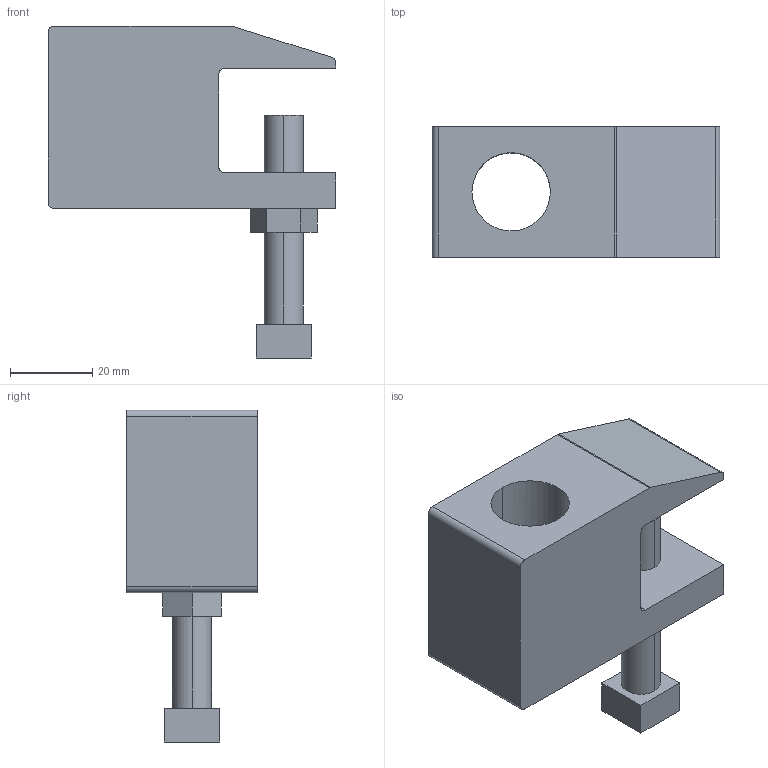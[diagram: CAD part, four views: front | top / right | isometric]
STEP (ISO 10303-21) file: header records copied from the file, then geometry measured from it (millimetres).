
FILE_DESCRIPTION(('TurboCAD Mac Pro'),'Build 980');
FILE_NAME('P2898-87.stp',' ',(''),(''),'ACIS Interop','IMSI','TurboCAD Mac Pro BY IMSI, INCORPORATED');
FILE_SCHEMA(('automotive_design'));
Length unit declared in the file: inch
Products named in the file (3): 1; 2; 3
Bounding box: 70.05 x 31.75 x 80.78 mm (x, y, z)
Volume: 65404.5 mm3; surface area: 18508.1 mm2
Topology: 3 solids, 3 shells, 44 faces, 111 edges, 74 vertices
Faces by surface type: plane 26, bspline 17, cylinder 1
Entity records: 1829 total; most frequent: CARTESIAN_POINT 453, ORIENTED_EDGE 222, DIRECTION 139, EDGE_CURVE 111, LINE 75, VECTOR 75, VERTEX_POINT 74, EDGE_LOOP 49
